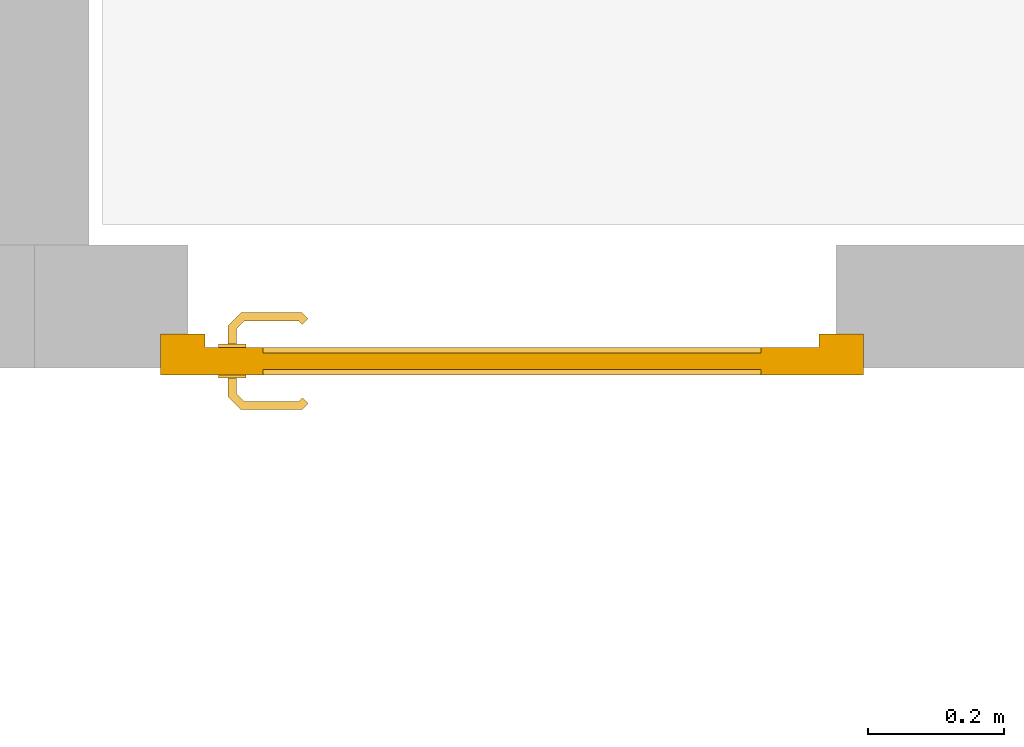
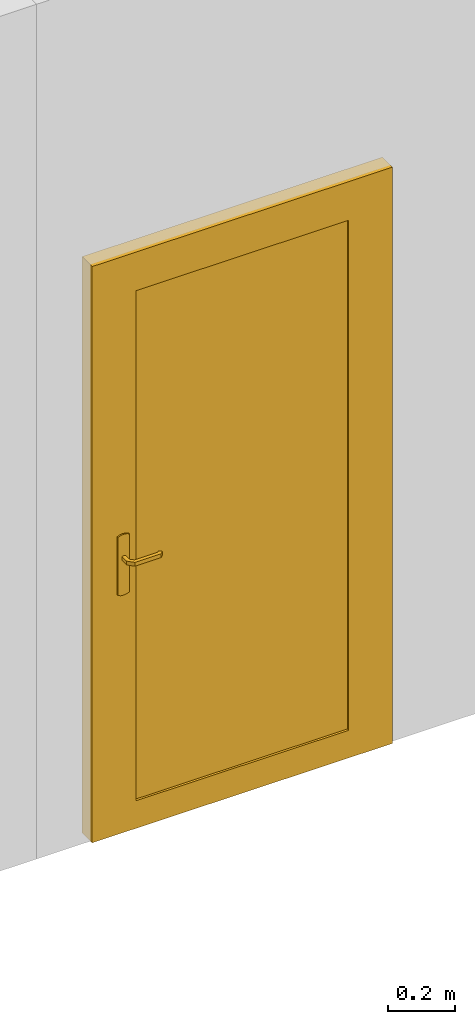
# One storey, part 8 of 9: 1 door.
"""IFC2X3 building model written with IfcOpenShell, lengths in metres."""

import ifcopenshell
import ifcopenshell.guid

model = None  # the IFC model being written
_history = None  # IfcOwnerHistory: only IFC2X3 demands one
_inside = {}  # id of a spatial element -> (the spatial element, [elements in it])
_under = {}  # id of a project, library or spatial element -> (it, [spatial elements below it])
_declared = {}  # id of a project -> (the project, [libraries it declares])
_typed = {}  # id of a type object -> (the type object, [elements of that type])
_made_of = {}  # id of a material, layer set ... -> (it, [elements and type objects made of it])


def new_model(schema):
    """Start an empty IFC model of exactly this schema.

    Asked for "IFC4X3", IfcOpenShell would pick the latest addendum, in which some entities
    have other attributes; the version numbers below select the first issue.
    IFC2X3 requires an IfcOwnerHistory on every rooted entity: one is made here for all.
    """
    global model, _history
    if schema == "IFC4X3":
        model = ifcopenshell.file(schema_version=(4, 3, 0, 0))
    else:
        model = ifcopenshell.file(schema=schema)
    _inside.clear()
    _under.clear()
    _declared.clear()
    _typed.clear()
    _made_of.clear()
    _history = None
    if model.schema == "IFC2X3":
        org = make("IfcOrganization", Name="unknown")
        user = make(
            "IfcPersonAndOrganization",
            ThePerson=make("IfcPerson", FamilyName="unknown"),
            TheOrganization=org,
        )
        app = make(
            "IfcApplication",
            ApplicationDeveloper=org,
            Version="unknown",
            ApplicationFullName="unknown",
            ApplicationIdentifier="unknown",
        )
        _history = make(
            "IfcOwnerHistory",
            OwningUser=user,
            OwningApplication=app,
            ChangeAction="ADDED",
            CreationDate=0,
        )
    return model


def make(cls, **values):
    """One entity of the class cls with the attributes given. An attribute that is None is left unset."""
    return model.create_entity(
        cls, **{name: value for name, value in values.items() if value is not None}
    )


def entity(cls, *values):
    """Any entity or typed value of the class cls, its attributes in the order of the schema. None: left unset."""
    e = model.create_entity(cls)
    for i, value in enumerate(values):
        if value is not None:
            e[i] = value
    return e


def rooted(cls, **values):
    """An entity with a GlobalId (a new one), such as an element, a storey or a relation."""
    return make(cls, GlobalId=ifcopenshell.guid.new(), OwnerHistory=_history, **values)


def si_unit(unit_type, name, prefix=None):
    """IfcSIUnit, for example si_unit("LENGTHUNIT", "METRE", prefix="MILLI")."""
    return make("IfcSIUnit", UnitType=unit_type, Prefix=prefix, Name=name)


def converted_unit(unit_type, name, factor, base, dimensions=None, offset=None):
    """IfcConversionBasedUnit, such as the inch: factor (a typed value) times the base unit."""
    return make(
        "IfcConversionBasedUnit"
        if offset is None
        else "IfcConversionBasedUnitWithOffset",
        ConversionOffset=offset,
        Dimensions=None
        if dimensions is None
        else entity("IfcDimensionalExponents", *dimensions),
        UnitType=unit_type,
        Name=name,
        ConversionFactor=make(
            "IfcMeasureWithUnit", ValueComponent=factor, UnitComponent=base
        ),
    )


def derived_unit(unit_type, elements):
    """IfcDerivedUnit: a product of units, each with its exponent."""
    return make(
        "IfcDerivedUnit",
        Elements=[
            make("IfcDerivedUnitElement", Unit=unit, Exponent=power)
            for unit, power in elements
        ],
        UnitType=unit_type,
    )


def assignment(units):
    """IfcUnitAssignment: the units of a project."""
    return None if units is None else make("IfcUnitAssignment", Units=units)


def point(xyz):
    """IfcCartesianPoint."""
    return None if xyz is None else make("IfcCartesianPoint", Coordinates=xyz)


def direction(xyz):
    """IfcDirection."""
    return None if xyz is None else make("IfcDirection", DirectionRatios=xyz)


def frame(location, z_axis=None, x_axis=None):
    """IfcAxis2Placement3D, a coordinate frame: its origin and axes. An axis left out is left unset."""
    return make(
        "IfcAxis2Placement3D",
        Location=point(location),
        Axis=direction(z_axis),
        RefDirection=direction(x_axis),
    )


def origin():
    """The frame at (0, 0, 0) with its axes left unset."""
    return frame((0.0, 0.0, 0.0))


def place(relative_to, where):
    """IfcLocalPlacement: puts the frame where relative to a parent placement (None: the world)."""
    return make(
        "IfcLocalPlacement", PlacementRelTo=relative_to, RelativePlacement=where
    )


def context(
    kind, dimensions, precision=None, world=None, true_north=None, identifier=None
):
    """IfcGeometricRepresentationContext, for example the 3D "Model" context."""
    return make(
        "IfcGeometricRepresentationContext",
        ContextIdentifier=identifier,
        ContextType=kind,
        CoordinateSpaceDimension=dimensions,
        Precision=precision,
        WorldCoordinateSystem=world,
        TrueNorth=true_north,
    )


def subcontext(parent, identifier, kind, view, scale=None):
    """IfcGeometricRepresentationSubContext, for example "Body" below "Model"."""
    return make(
        "IfcGeometricRepresentationSubContext",
        ContextIdentifier=identifier,
        ContextType=kind,
        ParentContext=parent,
        TargetScale=scale,
        TargetView=view,
    )


def project(units=None, contexts=None):
    """IfcProject with its units and contexts."""
    return rooted(
        "IfcProject",
        Name="project",
        RepresentationContexts=contexts,
        UnitsInContext=assignment(units),
    )


def spatial(cls, under=None, at=None, **own):
    """A site, building, storey or space (cls), placed at a placement, below another one or the project."""
    s = rooted(cls, ObjectPlacement=at, **own)
    if under is not None:
        _under.setdefault(under.id(), (under, []))[1].append(s)
    return s


def faces_of(points, faces, orient=None, outer=None):
    """IfcFace entities. A face is a list of loops; a loop is a list of indices into points, from 0.

    orient and outer hold one flag for each loop. By default every Orientation is true, the
    first loop of a face is its IfcFaceOuterBound and the others are IfcFaceBound.
    """
    made = []
    for i, loops in enumerate(faces):
        bounds = []
        for j, loop in enumerate(loops):
            is_outer = j == 0 if outer is None else outer[i][j]
            bounds.append(
                make(
                    "IfcFaceOuterBound" if is_outer else "IfcFaceBound",
                    Bound=make("IfcPolyLoop", Polygon=[points[k] for k in loop]),
                    Orientation=True if orient is None else orient[i][j],
                )
            )
        made.append(make("IfcFace", Bounds=bounds))
    return made


def faceted_brep(points, faces, orient=None, outer=None, voids=None):
    """IfcFacetedBrep: a solid bounded by flat faces; with voids (closed shells), ...WithVoids."""
    shared = [point(p) for p in points]
    hull = make("IfcClosedShell", CfsFaces=faces_of(shared, faces, orient, outer))
    if voids is None:
        return make("IfcFacetedBrep", Outer=hull)
    return make(
        "IfcFacetedBrepWithVoids",
        Outer=hull,
        Voids=[
            make(cls, CfsFaces=faces_of(shared, fs, o, b)) for cls, fs, o, b in voids
        ],
    )


def shape(context_of_items, identifier, shape_type, items):
    """IfcShapeRepresentation: the items that make up one representation, for example the "Body"."""
    return make(
        "IfcShapeRepresentation",
        ContextOfItems=context_of_items,
        RepresentationIdentifier=identifier,
        RepresentationType=shape_type,
        Items=items,
    )


def source(mapping_origin, context_of_items, identifier, shape_type, items):
    """IfcRepresentationMap: a shape defined once, which mapped items show again and again."""
    return make(
        "IfcRepresentationMap",
        MappingOrigin=mapping_origin,
        MappedRepresentation=shape(context_of_items, identifier, shape_type, items),
    )


def transform(
    local_origin,
    x_axis=None,
    y_axis=None,
    z_axis=None,
    scale=None,
    scale2=None,
    scale3=None,
    uniform=True,
):
    """IfcCartesianTransformationOperator3D, or its non-uniform kind. x_axis, y_axis, z_axis: its Axis1, 2, 3."""
    if uniform:
        return make(
            "IfcCartesianTransformationOperator3D",
            Axis1=direction(x_axis),
            Axis2=direction(y_axis),
            LocalOrigin=point(local_origin),
            Scale=scale,
            Axis3=direction(z_axis),
        )
    return make(
        "IfcCartesianTransformationOperator3DnonUniform",
        Axis1=direction(x_axis),
        Axis2=direction(y_axis),
        LocalOrigin=point(local_origin),
        Scale=scale,
        Axis3=direction(z_axis),
        Scale2=scale2,
        Scale3=scale3,
    )


def mapped(mapping_source, mapping_target):
    """IfcMappedItem: shows the shape of a source again, moved by a transform."""
    return make(
        "IfcMappedItem", MappingSource=mapping_source, MappingTarget=mapping_target
    )


def material(Name=None, Category=None):
    """IfcMaterial."""
    return make("IfcMaterial", Name=Name, Category=Category)


def made_of(thing, what):
    """Note that an element or type object is made of a material, layer set ...; save() writes the relation."""
    if what is not None:
        _made_of.setdefault(what.id(), (what, []))[1].append(thing)
    return thing


def type_object(cls, material=None, **own):
    """A type object (cls), such as IfcWallType, which elements share."""
    return made_of(rooted(cls, **own), material)


def type_shapes(of_type, sources):
    """Give a type object the sources (RepresentationMaps) that its elements show as mapped items."""
    of_type.RepresentationMaps = sources


def element(
    cls,
    number,
    at=None,
    inside=None,
    cuts=None,
    type_object=None,
    material=None,
    context=None,
    identifier="Body",
    shape_type=None,
    held_by="IfcProductDefinitionShape",
    body=None,
    shapes=None,
    **own,
):
    """One element of the class cls, such as IfcWall. Its Tag is "e" and its number.

    at: its placement. inside: the storey or other place that contains it. cuts: it is an
    opening in that element (IfcRelVoidsElement). A single representation is given by context,
    identifier, shape_type and body (its items); several are given by shapes. held_by: the class
    of the entity that holds the representations. save() writes the other relations.
    """
    e = rooted(cls, Tag="e%d" % number, ObjectPlacement=at, **own)
    if body is not None:
        shapes = [shape(context, identifier, shape_type, body)]
    if shapes is not None:
        e.Representation = make(held_by, Representations=shapes)
    if inside is not None:
        _inside.setdefault(inside.id(), (inside, []))[1].append(e)
    if cuts is not None:
        rooted(
            "IfcRelVoidsElement", RelatingBuildingElement=cuts, RelatedOpeningElement=e
        )
    if type_object is not None:
        _typed.setdefault(type_object.id(), (type_object, []))[1].append(e)
    return made_of(e, material)


def aggregate(whole, parts):
    """IfcRelAggregates: a whole, such as a stair, and the parts it consists of."""
    return rooted("IfcRelAggregates", RelatingObject=whole, RelatedObjects=parts)


def save(model, path):
    """Write the relations noted so far, then the file.

    IfcRelAggregates (storeys below a building ...), IfcRelContainedInSpatialStructure (elements
    in a storey), IfcRelDefinesByType, IfcRelAssociatesMaterial and IfcRelDeclares: one each for
    every whole, place, type object, material and project.
    """
    for whole, parts in _under.values():
        aggregate(whole, parts)
    for where, things in _inside.values():
        rooted(
            "IfcRelContainedInSpatialStructure",
            RelatedElements=things,
            RelatingStructure=where,
        )
    for kind, things in _typed.values():
        rooted("IfcRelDefinesByType", RelatedObjects=things, RelatingType=kind)
    for what, things in _made_of.values():
        rooted("IfcRelAssociatesMaterial", RelatedObjects=things, RelatingMaterial=what)
    for by, libraries in _declared.values():
        rooted("IfcRelDeclares", RelatingContext=by, RelatedDefinitions=libraries)
    model.write(path)


model = new_model("IFC2X3")

# Units and contexts
model_context = context("Model", 3, precision=1e-05, world=origin(), true_north=direction((6.12303176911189e-17, 1.0)))
body_context = subcontext(model_context, "Body", "Model", "MODEL_VIEW")
ifc_project = project(units=[si_unit("LENGTHUNIT", "METRE"), si_unit("AREAUNIT", "SQUARE_METRE"), si_unit("VOLUMEUNIT", "CUBIC_METRE"), converted_unit("PLANEANGLEUNIT", "DEGREE", entity("IfcRatioMeasure", 0.0174532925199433), si_unit("PLANEANGLEUNIT", "RADIAN"), dimensions=[0, 0, 0, 0, 0, 0, 0]), si_unit("MASSUNIT", "GRAM", prefix="KILO"), derived_unit("MASSDENSITYUNIT", [(si_unit("MASSUNIT", "GRAM", prefix="KILO"), 1), (si_unit("LENGTHUNIT", "METRE"), -3)]), si_unit("TIMEUNIT", "SECOND"), si_unit("FREQUENCYUNIT", "HERTZ"), si_unit("THERMODYNAMICTEMPERATUREUNIT", "DEGREE_CELSIUS"), derived_unit("THERMALTRANSMITTANCEUNIT", [(si_unit("MASSUNIT", "GRAM", prefix="KILO"), 1), (si_unit("THERMODYNAMICTEMPERATUREUNIT", "KELVIN"), -1), (si_unit("TIMEUNIT", "SECOND"), -3)]), derived_unit("VOLUMETRICFLOWRATEUNIT", [(si_unit("LENGTHUNIT", "METRE"), 3), (si_unit("TIMEUNIT", "SECOND"), -1)]), si_unit("ELECTRICCURRENTUNIT", "AMPERE"), si_unit("ELECTRICVOLTAGEUNIT", "VOLT"), si_unit("POWERUNIT", "WATT"), si_unit("FORCEUNIT", "NEWTON", prefix="KILO"), si_unit("ILLUMINANCEUNIT", "LUX"), si_unit("LUMINOUSFLUXUNIT", "LUMEN"), si_unit("LUMINOUSINTENSITYUNIT", "CANDELA"), derived_unit("USERDEFINED", [(si_unit("MASSUNIT", "GRAM", prefix="KILO"), -1), (si_unit("LENGTHUNIT", "METRE"), -2), (si_unit("TIMEUNIT", "SECOND"), 3), (si_unit("LUMINOUSFLUXUNIT", "LUMEN"), 1)]), derived_unit("LINEARVELOCITYUNIT", [(si_unit("LENGTHUNIT", "METRE"), 1), (si_unit("TIMEUNIT", "SECOND"), -1)]), si_unit("PRESSUREUNIT", "PASCAL"), derived_unit("USERDEFINED", [(si_unit("LENGTHUNIT", "METRE"), -2), (si_unit("MASSUNIT", "GRAM", prefix="KILO"), 1), (si_unit("TIMEUNIT", "SECOND"), -2)])], contexts=[model_context])

# Site, building, storey
site_placement = place(None, origin())
site = spatial("IfcSite", under=ifc_project, at=site_placement, Name="Default", CompositionType="ELEMENT")
building_placement = place(site_placement, origin())
building = spatial("IfcBuilding", under=site, at=building_placement, CompositionType="ELEMENT")
storey_placement = place(building_placement, origin())
storey = spatial("IfcBuildingStorey", under=building, at=storey_placement, Name="Niveau 0", CompositionType="ELEMENT", Elevation=-1.94916083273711e-14)

# Door
ifc_material = material(Name="PVC - Blanc")
door_style = type_object("IfcDoorStyle", Name="0.93 x 2.04", ConstructionType="NOTDEFINED", OperationType="SINGLE_SWING_RIGHT", ParameterTakesPrecedence=False, Sizeable=False, material=ifc_material)
shared_shape = source(origin(), body_context, "Body", "Brep", [
    faceted_brep([(0.102974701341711, 0.335, 1.00778044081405), (0.0989999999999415, 0.335, 1.00699999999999), (0.0989999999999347, 0.335, 0.992999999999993), (0.102974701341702, 0.335, 0.992219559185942), (0.107025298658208, 0.335, 0.99221955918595), (0.11099999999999, 0.335, 0.993000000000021), (0.110999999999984, 0.335, 1.00699999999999), (0.107025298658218, 0.335, 1.00778044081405), (0.11099999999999, 0.357485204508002, 0.993000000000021), (0.11099999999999, 0.357485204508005, 1.00699999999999), (0.107025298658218, 0.359131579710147, 1.00778044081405), (0.120838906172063, 0.372945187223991, 1.00778044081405), (0.119161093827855, 0.376995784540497, 1.00778044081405), (0.102974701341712, 0.360809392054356, 1.00778044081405), (0.210684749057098, 0.366467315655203, 1.00778044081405), (0.213548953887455, 0.369331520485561, 1.00778044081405), (0.205884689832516, 0.376995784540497, 1.00778044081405), (0.204206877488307, 0.372945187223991, 1.00778044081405), (0.0989999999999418, 0.3624557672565, 1.00699999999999), (0.0989999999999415, 0.362455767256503, 0.992999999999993), (0.102974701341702, 0.36080939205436, 0.992219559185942), (0.119161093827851, 0.376995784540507, 0.992219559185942), (0.120838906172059, 0.372945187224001, 0.99221955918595), (0.107025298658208, 0.359131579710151, 0.99221955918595), (0.213548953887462, 0.369331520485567, 0.992219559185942), (0.210684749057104, 0.366467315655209, 0.992219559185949), (0.204206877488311, 0.372945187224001, 0.992219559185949), (0.20588468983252, 0.376995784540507, 0.992219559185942), (0.122485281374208, 0.368970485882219, 0.993000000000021), (0.12248528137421, 0.368970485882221, 1.00699999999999), (0.117514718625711, 0.380970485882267, 1.00699999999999), (0.117514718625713, 0.38097048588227, 0.992999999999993), (0.162522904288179, 0.368970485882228, 0.993000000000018), (0.202560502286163, 0.368970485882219, 0.993000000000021), (0.202560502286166, 0.368970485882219, 1.00699999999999), (0.162522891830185, 0.368970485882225, 1.00699999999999), (0.162522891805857, 0.375124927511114, 1.00787811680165), (0.20753106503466, 0.380970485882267, 1.00699999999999), (0.167600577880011, 0.380970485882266, 1.00699999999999), (0.207531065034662, 0.380970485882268, 0.992999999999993), (0.157445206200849, 0.380970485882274, 0.992999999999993), (0.162522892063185, 0.375124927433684, 0.992121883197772), (0.207874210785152, 0.363656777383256, 0.993000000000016), (0.216359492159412, 0.372142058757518, 0.992999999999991), (0.216359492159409, 0.372142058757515, 1.00699999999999), (0.20787421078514, 0.363656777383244, 1.00699999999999)], [[[0, 1, 2, 3, 4, 5, 6, 7]], [[6, 5, 8, 9]], [[9, 10, 7, 6]], [[10, 11, 12, 13, 0, 7]], [[14, 15, 16, 17]], [[13, 18, 1, 0]], [[2, 1, 18, 19]], [[19, 20, 3, 2]], [[20, 21, 22, 23, 4, 3]], [[24, 25, 26, 27]], [[23, 8, 5, 4]], [[9, 8, 28, 29]], [[29, 11, 10, 9]], [[12, 30, 18, 13]], [[19, 18, 30, 31]], [[31, 21, 20, 19]], [[22, 28, 8, 23]], [[29, 28, 32, 33, 34, 35]], [[11, 35, 36]], [[16, 37, 38]], [[30, 12, 38]], [[38, 12, 36]], [[36, 35, 17]], [[17, 16, 36]], [[35, 11, 29]], [[34, 17, 35]], [[11, 36, 12]], [[38, 36, 16]], [[31, 30, 38, 37, 39, 40]], [[40, 41, 21]], [[41, 40, 27]], [[21, 31, 40]], [[39, 27, 40]], [[41, 32, 22]], [[22, 21, 41]], [[26, 32, 41]], [[28, 22, 32]], [[32, 26, 33]], [[26, 41, 27]], [[42, 25, 24, 43, 44, 15, 14, 45]], [[34, 33, 42, 45]], [[45, 14, 17, 34]], [[15, 44, 37, 16]], [[39, 37, 44, 43]], [[43, 24, 27, 39]], [[25, 42, 33, 26]]]),
    faceted_brep([(0.102974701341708, 0.285, 1.00778044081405), (0.107025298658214, 0.285, 1.00778044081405), (0.110999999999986, 0.285, 1.00699999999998), (0.11099999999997, 0.285, 0.993000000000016), (0.107025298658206, 0.285, 0.99221955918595), (0.1029747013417, 0.285, 0.992219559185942), (0.0989999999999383, 0.285, 0.992999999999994), (0.0989999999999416, 0.285, 1.00699999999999), (0.0989999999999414, 0.257349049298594, 1.00699999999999), (0.102974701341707, 0.258995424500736, 1.00778044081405), (0.11902358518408, 0.242946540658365, 1.00778044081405), (0.120701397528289, 0.246997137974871, 1.00778044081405), (0.107025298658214, 0.260673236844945, 1.00778044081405), (0.21352181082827, 0.250610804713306, 1.00778044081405), (0.210657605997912, 0.253475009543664, 1.00778044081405), (0.204179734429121, 0.246997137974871, 1.00778044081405), (0.20585754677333, 0.242946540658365, 1.00778044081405), (0.110999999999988, 0.26231961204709, 1.00699999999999), (0.110999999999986, 0.262319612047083, 0.993000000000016), (0.107025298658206, 0.260673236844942, 0.99221955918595), (0.120701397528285, 0.246997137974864, 0.99221955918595), (0.119023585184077, 0.242946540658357, 0.992219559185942), (0.1029747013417, 0.258995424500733, 0.992219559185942), (0.210657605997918, 0.253475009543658, 0.992219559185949), (0.213521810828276, 0.250610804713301, 0.992219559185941), (0.205857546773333, 0.242946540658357, 0.992219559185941), (0.204179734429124, 0.246997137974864, 0.992219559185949), (0.0989999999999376, 0.257349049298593, 0.992999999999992), (0.117377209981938, 0.238971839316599, 1.00699999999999), (0.122347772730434, 0.250971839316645, 1.00699999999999), (0.122347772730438, 0.250971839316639, 0.993000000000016), (0.117377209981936, 0.238971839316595, 0.992999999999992), (0.157307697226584, 0.238971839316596, 1.00699999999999), (0.162440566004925, 0.2448171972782, 1.00787811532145), (0.207503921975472, 0.238971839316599, 1.00699999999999), (0.162440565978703, 0.250971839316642, 1.00699999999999), (0.202533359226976, 0.250971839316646, 1.00699999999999), (0.202533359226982, 0.250971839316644, 0.993000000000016), (0.162440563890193, 0.250971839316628, 0.993000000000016), (0.1624405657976, 0.244817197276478, 0.992121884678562), (0.207503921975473, 0.238971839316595, 0.992999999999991), (0.167573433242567, 0.238971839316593, 0.992999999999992), (0.207847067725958, 0.256285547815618, 1.00699999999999), (0.216332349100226, 0.24780026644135, 1.00699999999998), (0.216332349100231, 0.247800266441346, 0.992999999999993), (0.207847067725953, 0.256285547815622, 0.993000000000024)], [[[0, 1, 2, 3, 4, 5, 6, 7]], [[8, 9, 0, 7]], [[9, 10, 11, 12, 1, 0]], [[13, 14, 15, 16]], [[12, 17, 2, 1]], [[3, 2, 17, 18]], [[18, 19, 4, 3]], [[19, 20, 21, 22, 5, 4]], [[23, 24, 25, 26]], [[22, 27, 6, 5]], [[7, 6, 27, 8]], [[28, 10, 9, 8]], [[11, 29, 17, 12]], [[18, 17, 29, 30]], [[30, 20, 19, 18]], [[21, 31, 27, 22]], [[8, 27, 31, 28]], [[32, 33, 10]], [[33, 32, 16]], [[10, 28, 32]], [[34, 16, 32]], [[33, 35, 11]], [[11, 10, 33]], [[15, 35, 33]], [[29, 11, 35]], [[35, 15, 36]], [[15, 33, 16]], [[30, 29, 35, 36, 37, 38]], [[20, 38, 39]], [[25, 40, 41]], [[31, 21, 41]], [[41, 21, 39]], [[39, 38, 26]], [[26, 25, 39]], [[38, 20, 30]], [[37, 26, 38]], [[20, 39, 21]], [[41, 39, 25]], [[28, 31, 41, 40, 34, 32]], [[42, 14, 13, 43, 44, 24, 23, 45]], [[43, 13, 16, 34]], [[14, 42, 36, 15]], [[37, 36, 42, 45]], [[45, 23, 26, 37]], [[24, 44, 40, 25]], [[34, 40, 44, 43]]]),
    faceted_brep([(0.11535276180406, 0.33, 0.866003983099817), (0.124999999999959, 0.33, 0.870000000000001), (0.124999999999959, 0.33, 1.08), (0.11535276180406, 0.33, 1.08399601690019), (0.104999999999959, 0.33, 1.08535898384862), (0.0946472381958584, 0.33, 1.08399601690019), (0.0849999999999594, 0.33, 1.08), (0.0849999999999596, 0.33, 0.870000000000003), (0.0946472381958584, 0.33, 0.866003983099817), (0.104999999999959, 0.33, 0.86464101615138), (0.11535276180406, 0.335, 1.08399601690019), (0.124999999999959, 0.335, 1.08), (0.124999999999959, 0.335, 0.870000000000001), (0.11535276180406, 0.335, 0.866003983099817), (0.104999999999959, 0.335, 0.86464101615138), (0.0946472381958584, 0.335, 0.866003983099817), (0.0849999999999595, 0.335, 0.870000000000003), (0.0849999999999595, 0.335, 1.08), (0.0946472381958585, 0.335, 1.08399601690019), (0.104999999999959, 0.335, 1.08535898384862)], [[[0, 1, 2, 3, 4, 5, 6, 7, 8, 9]], [[10, 11, 12, 13, 14, 15, 16, 17, 18, 19]], [[11, 10, 3, 2]], [[3, 10, 19, 4]], [[19, 18, 5, 4]], [[18, 17, 6, 5]], [[7, 6, 17, 16]], [[16, 15, 8, 7]], [[8, 15, 14, 9]], [[14, 13, 0, 9]], [[13, 12, 1, 0]], [[2, 1, 12, 11]]]),
    faceted_brep([(0.11535276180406, 0.285, 0.866003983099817), (0.124999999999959, 0.285, 0.870000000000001), (0.124999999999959, 0.285, 1.08), (0.11535276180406, 0.285, 1.08399601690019), (0.104999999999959, 0.285, 1.08535898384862), (0.0946472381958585, 0.285, 1.08399601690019), (0.0849999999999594, 0.285, 1.08), (0.0849999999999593, 0.285, 0.870000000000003), (0.0946472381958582, 0.285, 0.866003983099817), (0.104999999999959, 0.285, 0.86464101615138), (0.11535276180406, 0.29, 1.08399601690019), (0.124999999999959, 0.29, 1.08), (0.124999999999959, 0.29, 0.870000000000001), (0.11535276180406, 0.29, 0.866003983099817), (0.104999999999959, 0.29, 0.86464101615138), (0.0946472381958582, 0.29, 0.866003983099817), (0.0849999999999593, 0.29, 0.870000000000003), (0.0849999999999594, 0.29, 1.08), (0.0946472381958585, 0.29, 1.08399601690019), (0.104999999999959, 0.29, 1.08535898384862)], [[[0, 1, 2, 3, 4, 5, 6, 7, 8, 9]], [[10, 11, 12, 13, 14, 15, 16, 17, 18, 19]], [[16, 15, 8, 7]], [[8, 15, 14, 9]], [[14, 13, 0, 9]], [[13, 12, 1, 0]], [[2, 1, 12, 11]], [[11, 10, 3, 2]], [[3, 10, 19, 4]], [[19, 18, 5, 4]], [[18, 17, 6, 5]], [[7, 6, 17, 16]]]),
    faceted_brep([(0.0, 0.29, 0.0), (0.0, 0.35, 0.0), (0.0649999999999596, 0.35, 0.0), (0.0649999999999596, 0.33, 0.0), (0.0499999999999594, 0.33, 0.0), (0.0499999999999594, 0.29, 0.0), (0.0, 0.29, 2.09000000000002), (0.0, 0.35, 2.09000000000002), (1.02999999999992, 0.35, 2.09000000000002), (1.02999999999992, 0.35, 0.0), (0.964999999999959, 0.35, 0.0), (0.964999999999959, 0.35, 2.02500000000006), (0.0649999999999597, 0.35, 2.02500000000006), (0.0649999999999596, 0.33, 2.02500000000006), (0.964999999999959, 0.33, 2.02500000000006), (0.964999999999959, 0.33, 0.0), (0.979999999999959, 0.33, 0.0), (0.97999999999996, 0.33, 2.04000000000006), (0.0499999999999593, 0.33, 2.04000000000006), (0.0499999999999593, 0.29, 2.04000000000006), (0.979999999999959, 0.29, 2.04000000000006), (0.97999999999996, 0.29, 0.0), (1.02999999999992, 0.29, 0.0), (1.02999999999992, 0.29, 2.09000000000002)], [[[0, 1, 2, 3, 4, 5]], [[1, 0, 6, 7]], [[2, 1, 7, 8, 9, 10, 11, 12]], [[3, 2, 12, 13]], [[4, 3, 13, 14, 15, 16, 17, 18]], [[5, 4, 18, 19]], [[0, 5, 19, 20, 21, 22, 23, 6]], [[9, 8, 23, 22]], [[10, 9, 22, 21, 16, 15]], [[11, 10, 15, 14]], [[17, 16, 21, 20]], [[7, 6, 23, 8]], [[12, 11, 14, 13]], [[18, 17, 20, 19]]]),
    faceted_brep([(0.0499999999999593, 0.29, 2.04000000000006), (0.0499999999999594, 0.29, 0.0), (0.97999999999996, 0.29, 0.0), (0.97999999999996, 0.29, 2.04000000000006), (0.880000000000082, 0.29, 1.95000000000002), (0.88000000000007, 0.29, 0.0999999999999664), (0.150000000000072, 0.29, 0.0999999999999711), (0.150000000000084, 0.29, 1.95000000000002), (0.0499999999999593, 0.33, 2.04000000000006), (0.97999999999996, 0.33, 2.04000000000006), (0.97999999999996, 0.33, 0.0), (0.0499999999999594, 0.33, 0.0), (0.150000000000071, 0.33, 1.95000000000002), (0.150000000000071, 0.33, 0.100000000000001), (0.88000000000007, 0.33, 0.100000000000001), (0.880000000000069, 0.33, 1.95000000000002), (0.880000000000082, 0.298, 1.95000000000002), (0.150000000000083, 0.298, 1.95000000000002), (0.150000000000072, 0.298, 0.099999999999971), (0.88000000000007, 0.298, 0.0999999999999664), (0.150000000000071, 0.322, 1.95000000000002), (0.880000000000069, 0.322, 1.95000000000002), (0.88000000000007, 0.322, 0.100000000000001), (0.150000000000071, 0.322, 0.100000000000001)], [[[0, 1, 2, 3], [4, 5, 6, 7]], [[8, 9, 10, 11], [12, 13, 14, 15]], [[1, 0, 8, 11]], [[2, 1, 11, 10]], [[3, 2, 10, 9]], [[0, 3, 9, 8]], [[16, 17, 18, 19]], [[16, 19, 5, 4]], [[19, 18, 6, 5]], [[18, 17, 7, 6]], [[17, 16, 4, 7]], [[20, 21, 22, 23]], [[20, 23, 13, 12]], [[23, 22, 14, 13]], [[22, 21, 15, 14]], [[21, 20, 12, 15]]]),
])
type_shapes(door_style, [shared_shape])
door_placement = place(storey_placement, frame((6.54553863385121, -5.33088141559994, 0.0)))
element("IfcDoor", 1, at=door_placement, inside=storey, type_object=door_style, material=ifc_material, Name="PVC Panneau Plein:0.93 x 2.04", ObjectType="0.93 x 2.04", OverallHeight=2.09000000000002, OverallWidth=1.02999999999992, context=body_context, shape_type="MappedRepresentation", body=[
    mapped(shared_shape, transform((0.0, 0.0, 0.0), scale=1.0)),
])

save(model, "model.ifc")
